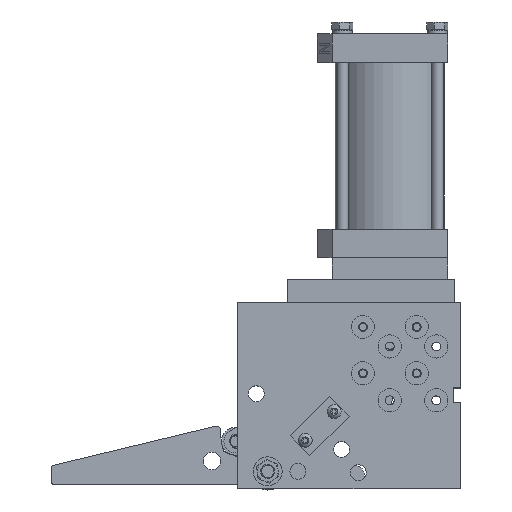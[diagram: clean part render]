
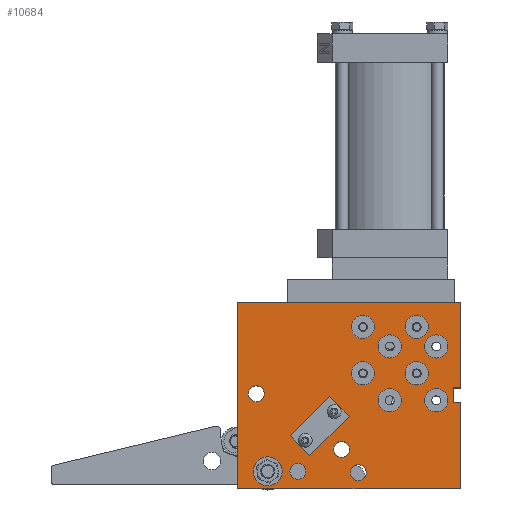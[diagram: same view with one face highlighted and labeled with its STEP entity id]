
A CAD part, top view. The second image highlights one B-rep face of the part: STEP entity #10684.
In plain terms, the highlighted planar face has unit normal (0, 0, 1) as drawn and (0, 0, -1) by its records, which use the part's own axes.
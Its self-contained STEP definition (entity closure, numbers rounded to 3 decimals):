
#552=LINE($,#16845,#1056);
#558=LINE($,#16857,#1062);
#560=LINE($,#16860,#1064);
#561=LINE($,#16863,#1065);
#562=LINE($,#16865,#1066);
#563=LINE($,#16867,#1067);
#564=LINE($,#16869,#1068);
#565=LINE($,#16870,#1069);
#1056=VECTOR($,#13317,5.);
#1062=VECTOR($,#13325,5.);
#1064=VECTOR($,#13329,10.);
#1065=VECTOR($,#13332,58.268);
#1066=VECTOR($,#13333,152.4);
#1067=VECTOR($,#13334,127.);
#1068=VECTOR($,#13335,152.4);
#1069=VECTOR($,#13336,58.732);
#2107=FACE_BOUND($,#3497,.T.);
#2108=FACE_BOUND($,#3498,.T.);
#2109=FACE_BOUND($,#3499,.T.);
#2110=FACE_BOUND($,#3500,.T.);
#2111=FACE_BOUND($,#3501,.T.);
#2112=FACE_BOUND($,#3502,.T.);
#2113=FACE_BOUND($,#3503,.T.);
#2114=FACE_BOUND($,#3504,.T.);
#2115=FACE_BOUND($,#3505,.T.);
#2116=FACE_BOUND($,#3506,.T.);
#2117=FACE_BOUND($,#3507,.T.);
#2118=FACE_BOUND($,#3508,.T.);
#2119=FACE_BOUND($,#3509,.T.);
#2120=FACE_BOUND($,#3510,.T.);
#2121=FACE_BOUND($,#3511,.T.);
#2122=FACE_BOUND($,#3512,.T.);
#2123=FACE_BOUND($,#3513,.T.);
#3497=EDGE_LOOP($,(#7816));
#3498=EDGE_LOOP($,(#7817));
#3499=EDGE_LOOP($,(#7818));
#3500=EDGE_LOOP($,(#7819));
#3501=EDGE_LOOP($,(#7820));
#3502=EDGE_LOOP($,(#7821));
#3503=EDGE_LOOP($,(#7822));
#3504=EDGE_LOOP($,(#7823));
#3505=EDGE_LOOP($,(#7824));
#3506=EDGE_LOOP($,(#7825));
#3507=EDGE_LOOP($,(#7826));
#3508=EDGE_LOOP($,(#7827));
#3509=EDGE_LOOP($,(#7828));
#3510=EDGE_LOOP($,(#7829));
#3511=EDGE_LOOP($,(#7830));
#3512=EDGE_LOOP($,(#7831));
#3513=EDGE_LOOP($,(#7832,#7833,#7834,#7835,#7836,#7837,#7838,#7839));
#4683=CIRCLE($,#11451,7.938);
#4685=CIRCLE($,#11455,9.919);
#4687=CIRCLE($,#11458,2.067);
#4689=CIRCLE($,#11461,2.067);
#4716=CIRCLE($,#11506,7.938);
#4719=CIRCLE($,#11512,7.938);
#4722=CIRCLE($,#11518,7.938);
#4725=CIRCLE($,#11524,7.938);
#4728=CIRCLE($,#11530,7.938);
#4731=CIRCLE($,#11536,7.938);
#4734=CIRCLE($,#11542,7.938);
#4737=CIRCLE($,#11548,7.938);
#4739=CIRCLE($,#11552,5.459);
#4741=CIRCLE($,#11555,5.459);
#4743=CIRCLE($,#11558,5.459);
#4745=CIRCLE($,#11561,5.459);
#5327=VERTEX_POINT($,#16547);
#5329=VERTEX_POINT($,#16553);
#5331=VERTEX_POINT($,#16558);
#5333=VERTEX_POINT($,#16563);
#5360=VERTEX_POINT($,#16635);
#5363=VERTEX_POINT($,#16644);
#5366=VERTEX_POINT($,#16653);
#5369=VERTEX_POINT($,#16662);
#5372=VERTEX_POINT($,#16671);
#5375=VERTEX_POINT($,#16680);
#5378=VERTEX_POINT($,#16689);
#5381=VERTEX_POINT($,#16698);
#5383=VERTEX_POINT($,#16704);
#5385=VERTEX_POINT($,#16709);
#5387=VERTEX_POINT($,#16714);
#5389=VERTEX_POINT($,#16719);
#5413=VERTEX_POINT($,#16842);
#5414=VERTEX_POINT($,#16844);
#5416=VERTEX_POINT($,#16850);
#5419=VERTEX_POINT($,#16855);
#5420=VERTEX_POINT($,#16862);
#5421=VERTEX_POINT($,#16864);
#5422=VERTEX_POINT($,#16866);
#5423=VERTEX_POINT($,#16868);
#6340=EDGE_CURVE($,#5327,#5327,#4683,.T.);
#6342=EDGE_CURVE($,#5329,#5329,#4685,.T.);
#6344=EDGE_CURVE($,#5331,#5331,#4687,.T.);
#6346=EDGE_CURVE($,#5333,#5333,#4689,.T.);
#6373=EDGE_CURVE($,#5360,#5360,#4716,.T.);
#6376=EDGE_CURVE($,#5363,#5363,#4719,.T.);
#6379=EDGE_CURVE($,#5366,#5366,#4722,.T.);
#6382=EDGE_CURVE($,#5369,#5369,#4725,.T.);
#6385=EDGE_CURVE($,#5372,#5372,#4728,.T.);
#6388=EDGE_CURVE($,#5375,#5375,#4731,.T.);
#6391=EDGE_CURVE($,#5378,#5378,#4734,.T.);
#6394=EDGE_CURVE($,#5381,#5381,#4737,.T.);
#6396=EDGE_CURVE($,#5383,#5383,#4739,.T.);
#6398=EDGE_CURVE($,#5385,#5385,#4741,.T.);
#6400=EDGE_CURVE($,#5387,#5387,#4743,.T.);
#6402=EDGE_CURVE($,#5389,#5389,#4745,.T.);
#6436=EDGE_CURVE($,#5413,#5414,#552,.T.);
#6442=EDGE_CURVE($,#5419,#5416,#558,.T.);
#6444=EDGE_CURVE($,#5416,#5413,#560,.T.);
#6445=EDGE_CURVE($,#5419,#5420,#561,.T.);
#6446=EDGE_CURVE($,#5420,#5421,#562,.T.);
#6447=EDGE_CURVE($,#5421,#5422,#563,.T.);
#6448=EDGE_CURVE($,#5422,#5423,#564,.T.);
#6449=EDGE_CURVE($,#5423,#5414,#565,.T.);
#7816=ORIENTED_EDGE($,*,*,#6340,.F.);
#7817=ORIENTED_EDGE($,*,*,#6342,.F.);
#7818=ORIENTED_EDGE($,*,*,#6344,.F.);
#7819=ORIENTED_EDGE($,*,*,#6346,.F.);
#7820=ORIENTED_EDGE($,*,*,#6373,.F.);
#7821=ORIENTED_EDGE($,*,*,#6376,.F.);
#7822=ORIENTED_EDGE($,*,*,#6379,.F.);
#7823=ORIENTED_EDGE($,*,*,#6382,.F.);
#7824=ORIENTED_EDGE($,*,*,#6385,.F.);
#7825=ORIENTED_EDGE($,*,*,#6388,.F.);
#7826=ORIENTED_EDGE($,*,*,#6391,.F.);
#7827=ORIENTED_EDGE($,*,*,#6394,.F.);
#7828=ORIENTED_EDGE($,*,*,#6396,.F.);
#7829=ORIENTED_EDGE($,*,*,#6398,.F.);
#7830=ORIENTED_EDGE($,*,*,#6400,.F.);
#7831=ORIENTED_EDGE($,*,*,#6402,.F.);
#7832=ORIENTED_EDGE($,*,*,#6442,.F.);
#7833=ORIENTED_EDGE($,*,*,#6445,.T.);
#7834=ORIENTED_EDGE($,*,*,#6446,.T.);
#7835=ORIENTED_EDGE($,*,*,#6447,.T.);
#7836=ORIENTED_EDGE($,*,*,#6448,.T.);
#7837=ORIENTED_EDGE($,*,*,#6449,.T.);
#7838=ORIENTED_EDGE($,*,*,#6436,.F.);
#7839=ORIENTED_EDGE($,*,*,#6444,.F.);
#10283=PLANE($,#11616);
#10684=ADVANCED_FACE($,(#2107,#2108,#2109,#2110,#2111,#2112,#2113,#2114,
#2115,#2116,#2117,#2118,#2119,#2120,#2121,#2122,#2123),#10283,.F.);
#11451=AXIS2_PLACEMENT_3D($,#16548,#12990,#12991);
#11455=AXIS2_PLACEMENT_3D($,#16554,#12998,#12999);
#11458=AXIS2_PLACEMENT_3D($,#16559,#13004,#13005);
#11461=AXIS2_PLACEMENT_3D($,#16564,#13010,#13011);
#11506=AXIS2_PLACEMENT_3D($,#16636,#13100,#13101);
#11512=AXIS2_PLACEMENT_3D($,#16645,#13112,#13113);
#11518=AXIS2_PLACEMENT_3D($,#16654,#13124,#13125);
#11524=AXIS2_PLACEMENT_3D($,#16663,#13136,#13137);
#11530=AXIS2_PLACEMENT_3D($,#16672,#13148,#13149);
#11536=AXIS2_PLACEMENT_3D($,#16681,#13160,#13161);
#11542=AXIS2_PLACEMENT_3D($,#16690,#13172,#13173);
#11548=AXIS2_PLACEMENT_3D($,#16699,#13184,#13185);
#11552=AXIS2_PLACEMENT_3D($,#16705,#13192,#13193);
#11555=AXIS2_PLACEMENT_3D($,#16710,#13198,#13199);
#11558=AXIS2_PLACEMENT_3D($,#16715,#13204,#13205);
#11561=AXIS2_PLACEMENT_3D($,#16720,#13210,#13211);
#11616=AXIS2_PLACEMENT_3D($,#16861,#13330,#13331);
#12990=DIRECTION('center_axis',(0.,0.,-1.));
#12991=DIRECTION('ref_axis',(1.,0.,0.));
#12998=DIRECTION('center_axis',(0.,0.,-1.));
#12999=DIRECTION('ref_axis',(1.,0.,0.));
#13004=DIRECTION('center_axis',(0.,0.,-1.));
#13005=DIRECTION('ref_axis',(1.,0.,0.));
#13010=DIRECTION('center_axis',(0.,0.,-1.));
#13011=DIRECTION('ref_axis',(1.,0.,0.));
#13100=DIRECTION('center_axis',(0.,0.,-1.));
#13101=DIRECTION('ref_axis',(1.,0.,0.));
#13112=DIRECTION('center_axis',(0.,0.,-1.));
#13113=DIRECTION('ref_axis',(1.,0.,0.));
#13124=DIRECTION('center_axis',(0.,0.,-1.));
#13125=DIRECTION('ref_axis',(1.,0.,0.));
#13136=DIRECTION('center_axis',(0.,0.,-1.));
#13137=DIRECTION('ref_axis',(1.,0.,0.));
#13148=DIRECTION('center_axis',(0.,0.,-1.));
#13149=DIRECTION('ref_axis',(1.,0.,0.));
#13160=DIRECTION('center_axis',(0.,0.,-1.));
#13161=DIRECTION('ref_axis',(1.,0.,0.));
#13172=DIRECTION('center_axis',(0.,0.,-1.));
#13173=DIRECTION('ref_axis',(1.,0.,0.));
#13184=DIRECTION('center_axis',(0.,0.,-1.));
#13185=DIRECTION('ref_axis',(1.,0.,0.));
#13192=DIRECTION('center_axis',(0.,0.,-1.));
#13193=DIRECTION('ref_axis',(1.,0.,0.));
#13198=DIRECTION('center_axis',(0.,0.,-1.));
#13199=DIRECTION('ref_axis',(1.,0.,0.));
#13204=DIRECTION('center_axis',(0.,0.,-1.));
#13205=DIRECTION('ref_axis',(1.,0.,0.));
#13210=DIRECTION('center_axis',(0.,0.,-1.));
#13211=DIRECTION('ref_axis',(1.,0.,0.));
#13317=DIRECTION($,(-1.,0.,0.));
#13325=DIRECTION($,(1.,0.,0.));
#13329=DIRECTION($,(0.,-1.,0.));
#13330=DIRECTION('center_axis',(0.,0.,1.));
#13331=DIRECTION('ref_axis',(1.,0.,0.));
#13332=DIRECTION($,(0.,1.,0.));
#13333=DIRECTION($,(1.,0.,0.));
#13334=DIRECTION($,(0.,-1.,0.));
#13335=DIRECTION($,(-1.,0.,0.));
#13336=DIRECTION($,(0.,1.,0.));
#16547=CARTESIAN_POINT('',(-23.735,24.784,-12.7));
#16548=CARTESIAN_POINT('Origin',(-31.673,24.784,-12.7));
#16553=CARTESIAN_POINT('',(13.806,-6.204,-12.7));
#16554=CARTESIAN_POINT('Origin',(3.887,-6.204,-12.7));
#16558=CARTESIAN_POINT('',(-19.728,14.906,-12.7));
#16559=CARTESIAN_POINT('Origin',(-21.795,14.906,-12.7));
#16563=CARTESIAN_POINT('',(-39.484,34.662,-12.7));
#16564=CARTESIAN_POINT('Origin',(-41.551,34.662,-12.7));
#16635=CARTESIAN_POINT('',(-53.326,60.852,-12.7));
#16636=CARTESIAN_POINT('Origin',(-61.264,60.852,-12.7));
#16644=CARTESIAN_POINT('',(-71.741,42.437,-12.7));
#16645=CARTESIAN_POINT('Origin',(-79.679,42.437,-12.7));
#16653=CARTESIAN_POINT('',(-53.326,92.602,-12.7));
#16654=CARTESIAN_POINT('Origin',(-61.264,92.602,-12.7));
#16662=CARTESIAN_POINT('',(-71.741,79.267,-12.7));
#16663=CARTESIAN_POINT('Origin',(-79.679,79.267,-12.7));
#16671=CARTESIAN_POINT('',(-90.156,60.852,-12.7));
#16672=CARTESIAN_POINT('Origin',(-98.094,60.852,-12.7));
#16680=CARTESIAN_POINT('',(-103.491,42.437,-12.7));
#16681=CARTESIAN_POINT('Origin',(-111.429,42.437,-12.7));
#16689=CARTESIAN_POINT('',(-90.156,92.602,-12.7));
#16690=CARTESIAN_POINT('Origin',(-98.094,92.602,-12.7));
#16698=CARTESIAN_POINT('',(-103.491,79.267,-12.7));
#16699=CARTESIAN_POINT('Origin',(-111.429,79.267,-12.7));
#16704=CARTESIAN_POINT('',(-11.355,-6.204,-12.7));
#16705=CARTESIAN_POINT('Origin',(-16.814,-6.204,-12.7));
#16709=CARTESIAN_POINT('',(17.22,46.882,-12.7));
#16710=CARTESIAN_POINT('Origin',(11.761,46.882,-12.7));
#16714=CARTESIAN_POINT('',(-41.2,8.782,-12.7));
#16715=CARTESIAN_POINT('Origin',(-46.659,8.782,-12.7));
#16719=CARTESIAN_POINT('',(-52.63,-7.093,-12.7));
#16720=CARTESIAN_POINT('Origin',(-58.089,-7.093,-12.7));
#16842=CARTESIAN_POINT('',(-122.939,40.844,-12.7));
#16844=CARTESIAN_POINT('',(-127.939,40.844,-12.7));
#16845=CARTESIAN_POINT($,(-89.839,40.844,-12.7));
#16850=CARTESIAN_POINT('',(-122.939,50.844,-12.7));
#16855=CARTESIAN_POINT('',(-127.939,50.844,-12.7));
#16857=CARTESIAN_POINT($,(-89.839,50.844,-12.7));
#16860=CARTESIAN_POINT($,(-122.939,45.728,-12.7));
#16861=CARTESIAN_POINT('Origin',(-51.739,45.612,-12.7));
#16862=CARTESIAN_POINT('',(-127.939,109.112,-12.7));
#16863=CARTESIAN_POINT($,(-127.939,-17.888,-12.7));
#16864=CARTESIAN_POINT('',(24.461,109.112,-12.7));
#16865=CARTESIAN_POINT($,(-127.939,109.112,-12.7));
#16866=CARTESIAN_POINT('',(24.461,-17.888,-12.7));
#16867=CARTESIAN_POINT($,(24.461,109.112,-12.7));
#16868=CARTESIAN_POINT('',(-127.939,-17.888,-12.7));
#16869=CARTESIAN_POINT($,(24.461,-17.888,-12.7));
#16870=CARTESIAN_POINT($,(-127.939,-17.888,-12.7));
